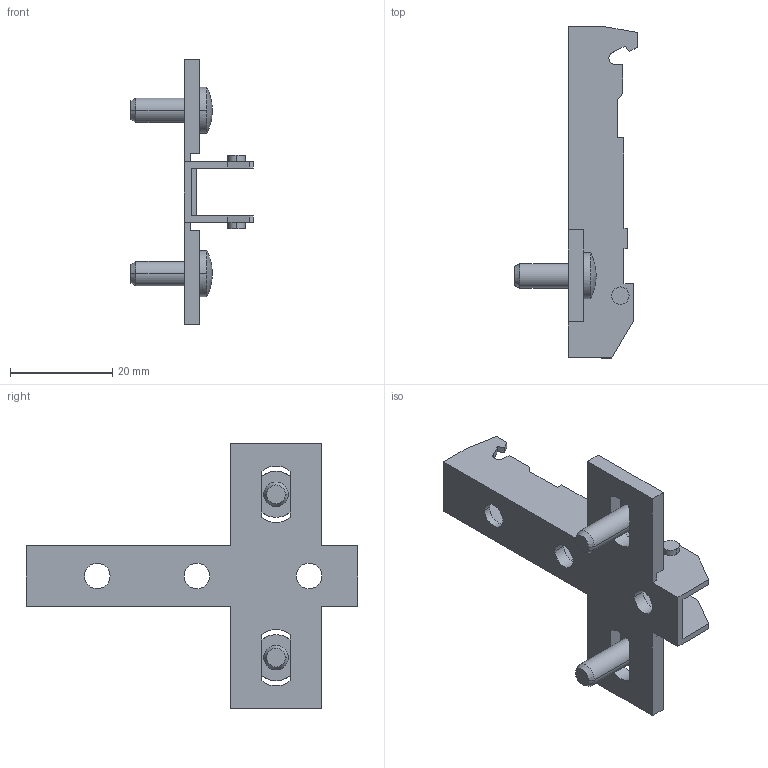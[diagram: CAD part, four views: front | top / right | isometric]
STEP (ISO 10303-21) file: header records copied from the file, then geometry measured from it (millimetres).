
FILE_DESCRIPTION (( 'STEP AP214' ), '1' );
FILE_NAME ('Eco Kreuzmontageplatte LR28_32_Euro_vorm. 13,5mm_H03.step', '2010-11-18T10:06:07', ( 'grass' ), ( '' ), 'SwSTEP 2.0', 'SolidWorks 2010', '' );
FILE_SCHEMA (( 'AUTOMOTIVE_DESIGN' ));
Length unit declared in the file: millimetre
Products named in the file (1): Eco Kreuzmontageplatte LR28_32_Euro_vorm. 13,5mm_H03
Bounding box: 24 x 65 x 52 mm (x, y, z)
Volume: 5214.2 mm3; surface area: 6685.4 mm2
Topology: 1 solids, 1 shells, 102 faces, 290 edges, 190 vertices
Faces by surface type: plane 70, cylinder 24, sphere 4, cone 4
Entity records: 3364 total; most frequent: CARTESIAN_POINT 583, ORIENTED_EDGE 580, DIRECTION 564, EDGE_CURVE 290, VECTOR 222, LINE 222, VERTEX_POINT 190, AXIS2_PLACEMENT_3D 171
